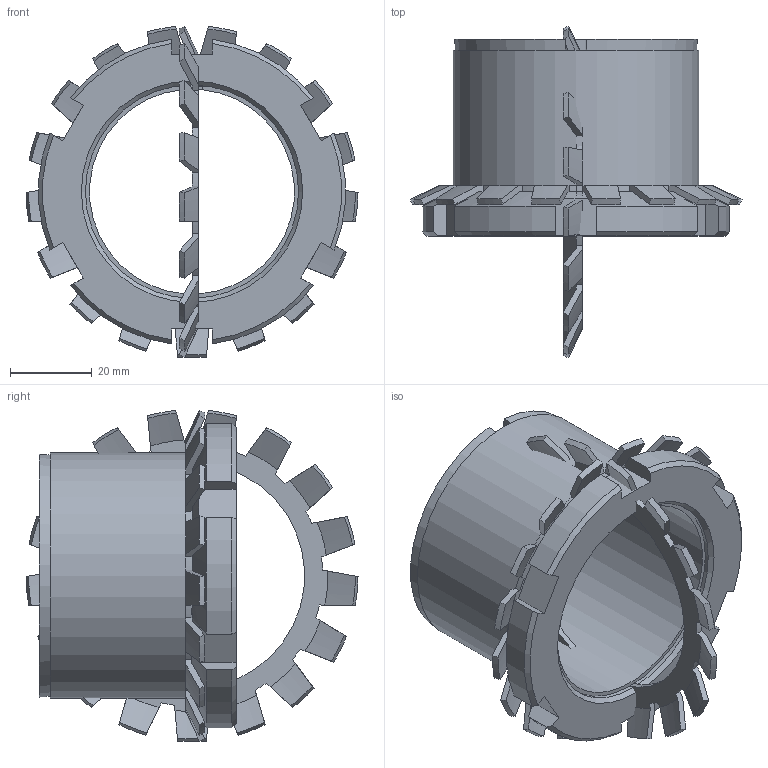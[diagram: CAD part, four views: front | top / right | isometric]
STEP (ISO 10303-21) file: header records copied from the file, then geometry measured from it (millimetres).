
FILE_DESCRIPTION( ( 'Unknown' ), '1' );
FILE_NAME( 'C:/Dokumente und Einstellungen/Sven/Desktop/homepage/cad - homepage/KBS55/KBS 55 - 50 x 60.stp', 'Unknown', ( 'Unknown' ), ( 'Unknown' ), 'XStep 1.0', 'Unknown', ' ' );
FILE_SCHEMA( ( 'automotive_design' ) );
Length unit declared in the file: millimetre
Products named in the file (3): Assem1; KBS 55 - 50 x 60; 08570118_locking_plate_din_5406_mb_11_2_14a
Bounding box: 81 x 81 x 80.79 mm (x, y, z)
Volume: 111037.3 mm3; surface area: 52844.1 mm2
Topology: 4 solids, 4 shells, 310 faces, 888 edges, 588 vertices
Faces by surface type: plane 134, cone 122, cylinder 54
Full cylindrical faces by diameter (mm): 52 x2, 60 x2
Entity records: 5506 total; most frequent: CARTESIAN_POINT 1136, ORIENTED_EDGE 878, DIRECTION 824, EDGE_CURVE 439, AXIS2_PLACEMENT_3D 325, VERTEX_POINT 293, LINE 174, VECTOR 174
